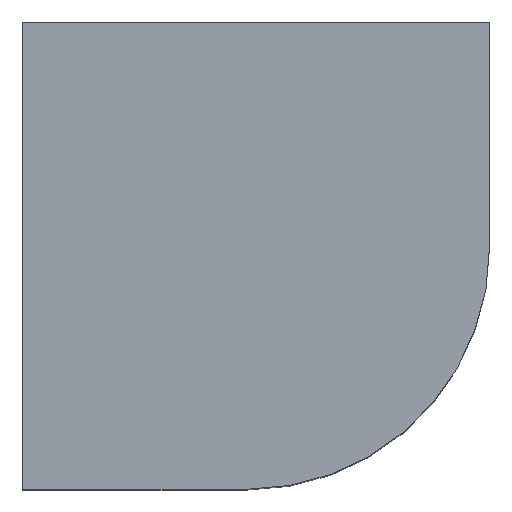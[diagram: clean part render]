
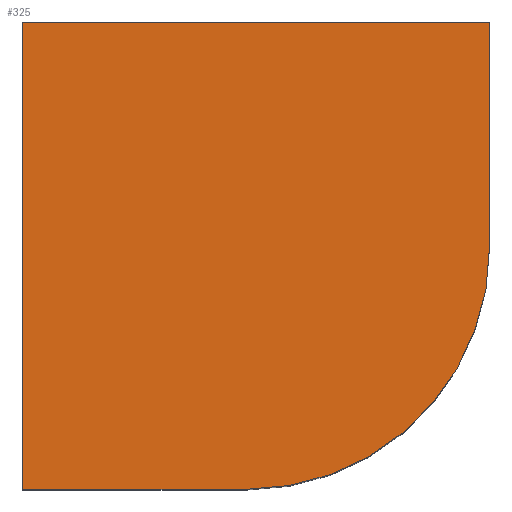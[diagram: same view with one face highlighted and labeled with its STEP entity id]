
A CAD part, top view. The second image highlights one B-rep face of the part: STEP entity #325.
In plain terms, the highlighted planar face has unit normal (0, 0, 1).
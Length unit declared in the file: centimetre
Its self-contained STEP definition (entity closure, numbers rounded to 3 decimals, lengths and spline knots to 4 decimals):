
#6 = CARTESIAN_POINT ( 'NONE',  ( 0., 0., 1000. ) ) ;
#18 = AXIS2_PLACEMENT_3D ( 'NONE', #243, #108, #84 ) ;
#28 = DIRECTION ( 'NONE',  ( 0., -1., 0. ) ) ;
#37 = CARTESIAN_POINT ( 'NONE',  ( 481.5261, 518.4739, 1000. ) ) ;
#40 = FACE_OUTER_BOUND ( 'NONE', #168, .T. ) ;
#48 = ORIENTED_EDGE ( 'NONE', *, *, #174, .T. ) ;
#57 = CARTESIAN_POINT ( 'NONE',  ( 1000., 1000., 1000. ) ) ;
#65 = PLANE ( 'NONE',  #18 ) ;
#84 = DIRECTION ( 'NONE',  ( 1., 0., 0. ) ) ;
#85 = DIRECTION ( 'NONE',  ( 0., 1., 0. ) ) ;
#103 = ORIENTED_EDGE ( 'NONE', *, *, #287, .T. ) ;
#105 = CARTESIAN_POINT ( 'NONE',  ( 481.5261, 0., 1000. ) ) ;
#108 = DIRECTION ( 'NONE',  ( 0., 0., 1. ) ) ;
#116 = CARTESIAN_POINT ( 'NONE',  ( 0., 0., 1000. ) ) ;
#125 = VERTEX_POINT ( 'NONE', #105 ) ;
#133 = CARTESIAN_POINT ( 'NONE',  ( 0., 1000., 1000. ) ) ;
#138 = CARTESIAN_POINT ( 'NONE',  ( 1000., 518.4739, 1000. ) ) ;
#140 = CARTESIAN_POINT ( 'NONE',  ( 1000., 1000., 1000. ) ) ;
#152 = LINE ( 'NONE', #133, #177 ) ;
#159 = DIRECTION ( 'NONE',  ( -1., 0., 0. ) ) ;
#161 = LINE ( 'NONE', #116, #330 ) ;
#168 = EDGE_LOOP ( 'NONE', ( #234, #103, #175, #271, #48 ) ) ;
#172 = VECTOR ( 'NONE', #85, 100. ) ;
#174 = EDGE_CURVE ( 'NONE', #329, #224, #152, .T. ) ;
#175 = ORIENTED_EDGE ( 'NONE', *, *, #197, .T. ) ;
#177 = VECTOR ( 'NONE', #28, 100. ) ;
#196 = VERTEX_POINT ( 'NONE', #138 ) ;
#197 = EDGE_CURVE ( 'NONE', #196, #223, #316, .T. ) ;
#208 = LINE ( 'NONE', #321, #252 ) ;
#212 = CIRCLE ( 'NONE', #258, 518.4739 ) ;
#213 = DIRECTION ( 'NONE',  ( 0., 0., 1. ) ) ;
#223 = VERTEX_POINT ( 'NONE', #140 ) ;
#224 = VERTEX_POINT ( 'NONE', #6 ) ;
#234 = ORIENTED_EDGE ( 'NONE', *, *, #284, .T. ) ;
#243 = CARTESIAN_POINT ( 'NONE',  ( 0., 0., 1000. ) ) ;
#252 = VECTOR ( 'NONE', #159, 100. ) ;
#258 = AXIS2_PLACEMENT_3D ( 'NONE', #37, #213, #326 ) ;
#265 = DIRECTION ( 'NONE',  ( 1., 0., 0. ) ) ;
#271 = ORIENTED_EDGE ( 'NONE', *, *, #277, .T. ) ;
#277 = EDGE_CURVE ( 'NONE', #223, #329, #208, .T. ) ;
#284 = EDGE_CURVE ( 'NONE', #224, #125, #161, .T. ) ;
#286 = CARTESIAN_POINT ( 'NONE',  ( 0., 1000., 1000. ) ) ;
#287 = EDGE_CURVE ( 'NONE', #125, #196, #212, .T. ) ;
#316 = LINE ( 'NONE', #57, #172 ) ;
#321 = CARTESIAN_POINT ( 'NONE',  ( 0., 1000., 1000. ) ) ;
#325 = ADVANCED_FACE ( 'NONE', ( #40 ), #65, .T. ) ;
#326 = DIRECTION ( 'NONE',  ( 1., 0., 0. ) ) ;
#329 = VERTEX_POINT ( 'NONE', #286 ) ;
#330 = VECTOR ( 'NONE', #265, 100. ) ;
